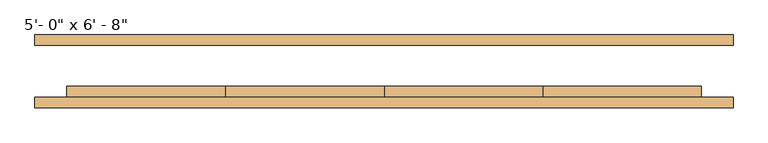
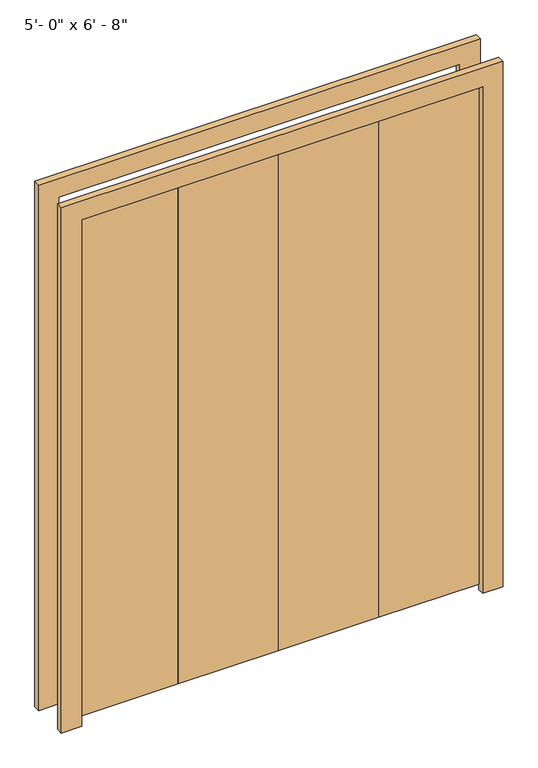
"""IFC4 building model written with IfcOpenShell, lengths in millimetres: door geometry."""

from ifc_helpers import new_model, si_unit, frame, origin, place, context, project, spatial, polyline, outline, extrude, source, transform, mapped, element, save


def door_980512ef(model_context):
    return source(origin(), model_context, "Body", "SweptSolid", [
        extrude(outline(polyline([(2032.0, -762.0), (2032.0, 762.0), (0.0, 762.0), (0.0, 838.2), (2108.2, 838.2), (2108.2, -838.2), (0.0, -838.2), (0.0, -762.0), (2032.0, -762.0)])), frame((0.0, 77.8749703, 0.0), z_axis=(0.0, 1.0, 0.0), x_axis=(0.0, 0.0, 1.0)), (0.0, 0.0, 1.0), 25.4),
        extrude(outline(polyline([(2032.0, -762.0), (2032.0, 762.0), (0.0, 762.0), (0.0, 838.2), (2108.2, 838.2), (2108.2, -838.2), (0.0, -838.2), (0.0, -762.0), (2032.0, -762.0)])), frame((0.0, -71.3500297, 0.0), z_axis=(0.0, 1.0, 0.0), x_axis=(0.0, 0.0, 1.0)), (0.0, 0.0, 1.0), 25.4),
        extrude(outline(polyline([(-762.0, -45.9500297), (-762.0, -20.5500297), (-381.0, -20.5500297), (-381.0, -45.9500297), (-762.0, -45.9500297)])), frame((0.0, 0.0, 22.225), z_axis=(0.0, 0.0, 1.0), x_axis=(1.0, 0.0, 0.0)), (0.0, 0.0, 1.0), 1990.725),
        extrude(outline(polyline([(-381.0, -45.9500297), (-381.0, -20.5500297), (0.0, -20.5500297), (0.0, -45.9500297), (-381.0, -45.9500297)])), frame((0.0, 0.0, 22.225), z_axis=(0.0, 0.0, 1.0), x_axis=(1.0, 0.0, 0.0)), (0.0, 0.0, 1.0), 1990.725),
        extrude(outline(polyline([(0.0, -45.9500297), (0.0, -20.5500297), (381.0, -20.5500297), (381.0, -45.9500297), (0.0, -45.9500297)])), frame((0.0, 0.0, 22.225), z_axis=(0.0, 0.0, 1.0), x_axis=(1.0, 0.0, 0.0)), (0.0, 0.0, 1.0), 1990.725),
        extrude(outline(polyline([(381.0, -45.9500297), (381.0, -20.5500297), (762.0, -20.5500297), (762.0, -45.9500297), (381.0, -45.9500297)])), frame((0.0, 0.0, 22.225), z_axis=(0.0, 0.0, 1.0), x_axis=(1.0, 0.0, 0.0)), (0.0, 0.0, 1.0), 1990.725),
    ])


if __name__ == "__main__":
    model = new_model("IFC4")
    model_context = context("Model", 3, world=origin())
    ifc_project = project(units=[si_unit("LENGTHUNIT", "METRE", prefix="MILLI")], contexts=[model_context])
    site = spatial("IfcSite", under=ifc_project)
    building = spatial("IfcBuilding", under=site)
    placement = place(None, origin())
    door_shape = door_980512ef(model_context)
    element("IfcDoor", 1, ObjectType="Door-Bifold 4-Panel Flush SlimFold_Dunbarton : 5'- 0\" x 6' - 8\"", at=placement, inside=building, context=model_context, shape_type="MappedRepresentation", body=[
        mapped(door_shape, transform((0.0, 0.0, 0.0), x_axis=(1.0, 0.0, 0.0), y_axis=(0.0, 1.0, 0.0), z_axis=(0.0, 0.0, 1.0))),
    ])
    save(model, "model.ifc")
